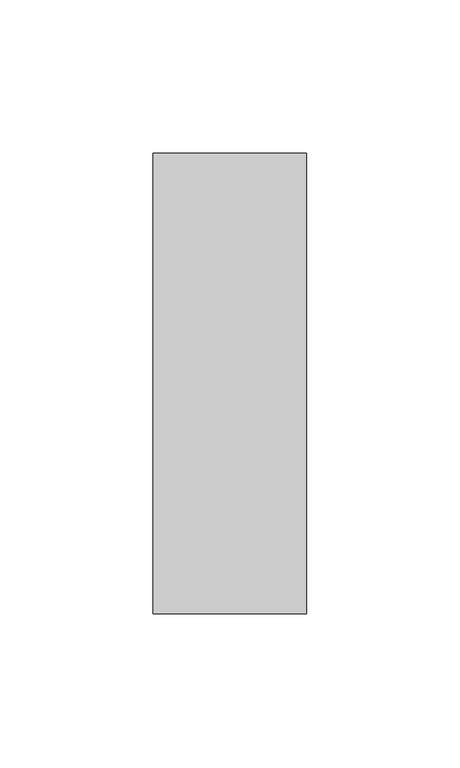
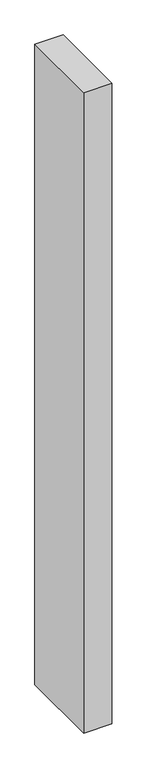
"""IFC4 building model written with IfcOpenShell, lengths in millimetres: member geometry, Прямоугольный импост : 50 x 150 мм."""

from ifc_helpers import new_model, si_unit, frame, origin, place, context, project, spatial, polyline, outline, extrude, source, transform, mapped, element, save


def member_bb4e1509(model_context):
    return source(origin(), model_context, "Body", "SweptSolid", [
        extrude(outline(polyline([(25.0, 75.0), (25.0, -75.0), (-25.0, -75.0), (-25.0, 75.0), (25.0, 75.0)])), frame((0.0, 0.0, -1204.7835574), z_axis=(0.0, 0.0, 1.0), x_axis=(1.0, 0.0, 0.0)), (0.0, 0.0, 1.0), 1204.7835574),
    ])


if __name__ == "__main__":
    model = new_model("IFC4")
    model_context = context("Model", 3, world=origin())
    ifc_project = project(units=[si_unit("LENGTHUNIT", "METRE", prefix="MILLI")], contexts=[model_context])
    site = spatial("IfcSite", under=ifc_project)
    building = spatial("IfcBuilding", under=site)
    placement = place(None, origin())
    member_shape = member_bb4e1509(model_context)
    element("IfcMember", 1, ObjectType="Прямоугольный импост : 50 x 150 мм", at=placement, inside=building, context=model_context, shape_type="MappedRepresentation", body=[
        mapped(member_shape, transform((0.0, 0.0, 0.0), x_axis=(1.0, 0.0, 0.0), y_axis=(0.0, 1.0, 0.0), z_axis=(0.0, 0.0, 1.0))),
    ])
    save(model, "model.ifc")
